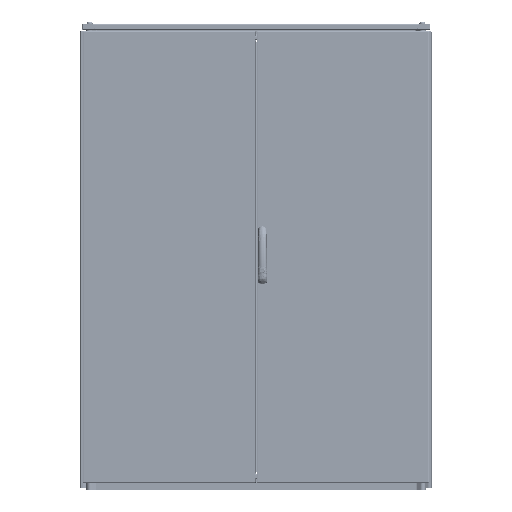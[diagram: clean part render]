
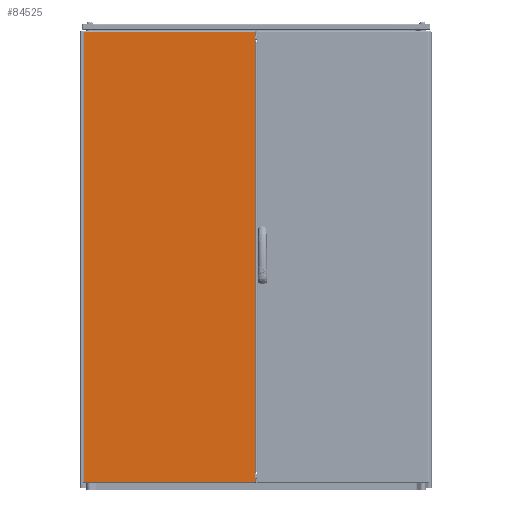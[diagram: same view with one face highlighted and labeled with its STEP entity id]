
A CAD part, top view. The second image highlights one B-rep face of the part: STEP entity #84525.
In plain terms, the highlighted planar face has unit normal (0, 0, 1).
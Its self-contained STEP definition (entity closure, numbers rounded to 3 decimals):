
#5195 = VECTOR ( 'NONE', #205534, 1000. ) ;
#32635 = EDGE_CURVE ( 'NONE', #293942, #191976, #132904, .T. ) ;
#35389 = FACE_OUTER_BOUND ( 'NONE', #129784, .T. ) ;
#35551 = DIRECTION ( 'NONE',  ( 1., 0., 0. ) ) ;
#57772 = DIRECTION ( 'NONE',  ( 0., 1., 0. ) ) ;
#59456 = VERTEX_POINT ( 'NONE', #120339 ) ;
#68097 = CARTESIAN_POINT ( 'NONE',  ( 0., 1560., 19. ) ) ;
#78523 = LINE ( 'NONE', #183896, #214385 ) ;
#82424 = CARTESIAN_POINT ( 'NONE',  ( 2.001, 1557., 19. ) ) ;
#83021 = EDGE_CURVE ( 'NONE', #59456, #293942, #214582, .T. ) ;
#83928 = CARTESIAN_POINT ( 'NONE',  ( 0., 3., 19. ) ) ;
#84525 = ADVANCED_FACE ( 'NONE', ( #35389 ), #116500, .F. ) ;
#89068 = LINE ( 'NONE', #83928, #140902 ) ;
#89861 = ORIENTED_EDGE ( 'NONE', *, *, #187911, .T. ) ;
#90597 = DIRECTION ( 'NONE',  ( 0., 0., -1. ) ) ;
#113523 = VERTEX_POINT ( 'NONE', #224411 ) ;
#116500 = PLANE ( 'NONE',  #265444 ) ;
#120339 = CARTESIAN_POINT ( 'NONE',  ( 592., 1557., 19. ) ) ;
#129784 = EDGE_LOOP ( 'NONE', ( #261740, #250877, #89861, #183861 ) ) ;
#132904 = LINE ( 'NONE', #238270, #5195 ) ;
#140902 = VECTOR ( 'NONE', #35551, 1000. ) ;
#183861 = ORIENTED_EDGE ( 'NONE', *, *, #327695, .T. ) ;
#183896 = CARTESIAN_POINT ( 'NONE',  ( 592., 1560., 19. ) ) ;
#187911 = EDGE_CURVE ( 'NONE', #191976, #113523, #89068, .T. ) ;
#191976 = VERTEX_POINT ( 'NONE', #247112 ) ;
#205534 = DIRECTION ( 'NONE',  ( 0., -1., 0. ) ) ;
#214385 = VECTOR ( 'NONE', #57772, 1000. ) ;
#214582 = LINE ( 'NONE', #319885, #214937 ) ;
#214937 = VECTOR ( 'NONE', #299127, 1000. ) ;
#224411 = CARTESIAN_POINT ( 'NONE',  ( 592., 3., 19. ) ) ;
#238270 = CARTESIAN_POINT ( 'NONE',  ( 2.001, 3., 19. ) ) ;
#247112 = CARTESIAN_POINT ( 'NONE',  ( 2.001, 3., 19. ) ) ;
#250877 = ORIENTED_EDGE ( 'NONE', *, *, #32635, .T. ) ;
#261740 = ORIENTED_EDGE ( 'NONE', *, *, #83021, .T. ) ;
#265444 = AXIS2_PLACEMENT_3D ( 'NONE', #68097, #90597, #271974 ) ;
#271974 = DIRECTION ( 'NONE',  ( -1., 0., 0. ) ) ;
#293942 = VERTEX_POINT ( 'NONE', #82424 ) ;
#299127 = DIRECTION ( 'NONE',  ( -1., 0., 0. ) ) ;
#319885 = CARTESIAN_POINT ( 'NONE',  ( 0., 1557., 19. ) ) ;
#327695 = EDGE_CURVE ( 'NONE', #113523, #59456, #78523, .T. ) ;
